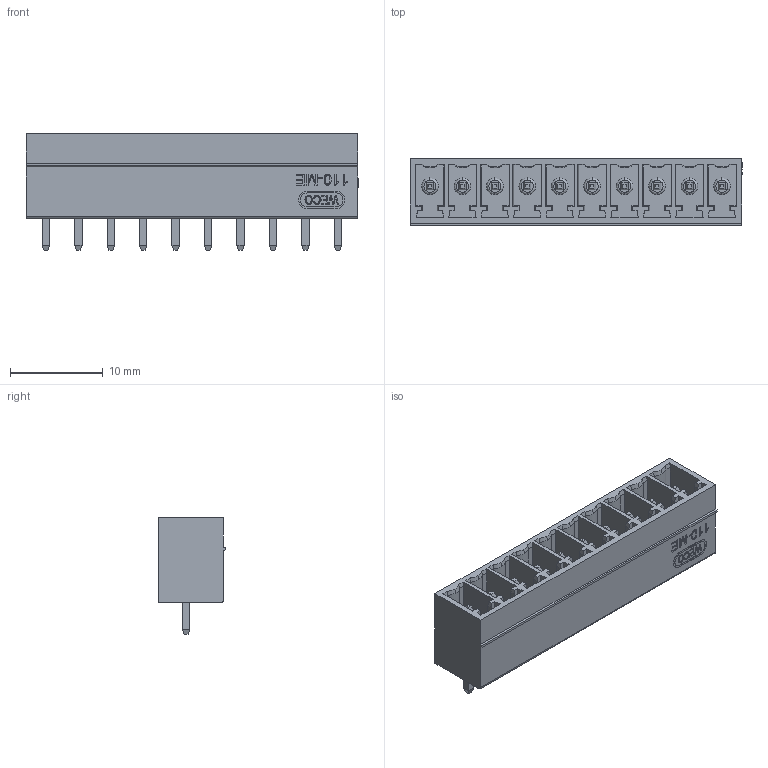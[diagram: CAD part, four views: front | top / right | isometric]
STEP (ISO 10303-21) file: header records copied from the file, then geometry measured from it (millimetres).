
FILE_DESCRIPTION (( 'STEP AP203' ), '1' );
FILE_NAME ('110-ME-121-10.STEP', '2025-03-25T19:59:43', ( '' ), ( '' ), 'SwSTEP 2.0', 'SolidWorks 2016', '' );
FILE_SCHEMA (( 'CONFIG_CONTROL_DESIGN' ));
Length unit declared in the file: millimetre
Products named in the file (1): 110-ME-121-10
Bounding box: 35.82 x 7.25 x 12.6 mm (x, y, z)
Volume: 1208.7 mm3; surface area: 3146 mm2
Topology: 1 solids, 1 shells, 1064 faces, 2857 edges, 1844 vertices
Faces by surface type: plane 942, cylinder 70, bspline 32, cone 20
Entity records: 32981 total; most frequent: CARTESIAN_POINT 6445, ORIENTED_EDGE 5714, DIRECTION 5060, EDGE_CURVE 2857, LINE 2582, VECTOR 2582, VERTEX_POINT 1844, AXIS2_PLACEMENT_3D 1239
